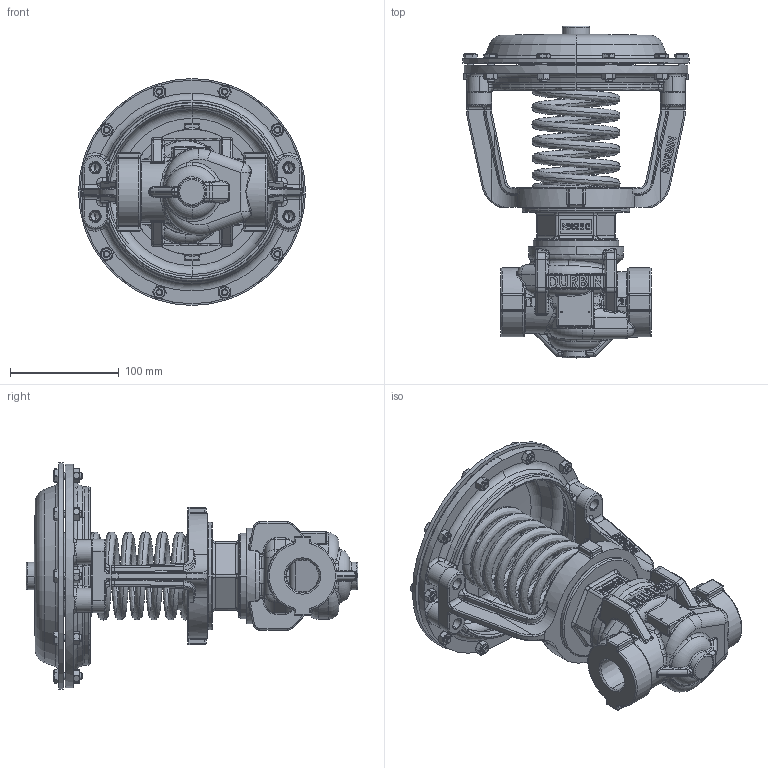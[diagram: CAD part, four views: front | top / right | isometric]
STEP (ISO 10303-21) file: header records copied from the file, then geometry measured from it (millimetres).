
FILE_DESCRIPTION (( 'STEP AP203' ), '1' );
FILE_NAME ('1.00-1.25 2W SM NPT SC500-STEP.STEP', '2018-11-07T14:46:39', ( '' ), ( '' ), 'SwSTEP 2.0', 'SolidWorks 2012', '' );
FILE_SCHEMA (( 'CONFIG_CONTROL_DESIGN' ));
Products named in the file (11): 1.00-1.25 2W SM NPT SC500-STEP; C293-091DR; D771; C293-091DM; H096-10; H060-03; D293-147DR; C893-048D-SS; D283-185D-SS; C013-009D-SS; C093-140D-SS
Assembly tree (28 placements, depth 3):
  1.00-1.25 2W SM NPT SC500-STEP
    C093-140D-SS
    C013-009D-SS
    D283-185D-SS
    C893-048D-SS
    D293-147DR
    H060-03  x10
    H096-10  x10
    C293-091DR
      C293-091DM
      D771
Bounding box: 208.28 x 304.58 x 208.28 mm (x, y, z)
Volume: 1230627.3 mm3; surface area: 394547.7 mm2
Topology: 27 solids, 27 shells, 3850 faces, 9157 edges, 5353 vertices
Faces by surface type: plane 977, bspline 796, cylinder 778, cone 573, torus 405, sphere 321
Entity records: 143160 total; most frequent: CARTESIAN_POINT 77830, ORIENTED_EDGE 14228, DIRECTION 12189, EDGE_CURVE 7114, AXIS2_PLACEMENT_3D 4915, VERTEX_POINT 4363, EDGE_LOOP 3063, FACE_OUTER_BOUND 2878
